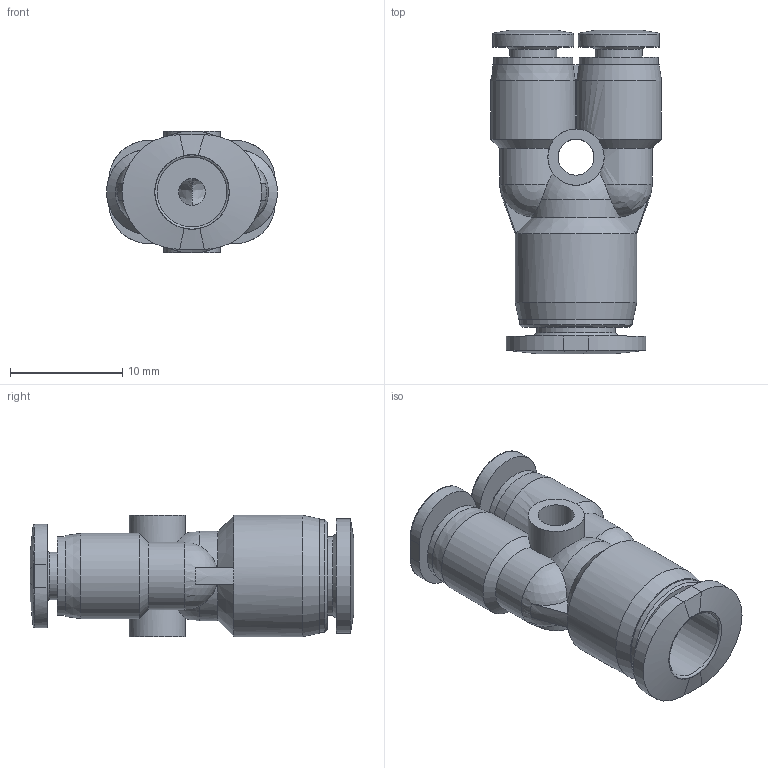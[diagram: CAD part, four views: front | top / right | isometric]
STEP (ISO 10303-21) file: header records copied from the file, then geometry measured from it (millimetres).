
FILE_DESCRIPTION((''),'2;1');
FILE_NAME('D:\INVENTOR\[New Inventor]\CDC Products 3D Ass''y\Compact\Metric\PW-C\PW0603C.stp','2009-02-11T11:28:35',('Microsoft'),(''),'Autodesk Inventor 2008','Autodesk Inventor 2008','');
FILE_SCHEMA(('AUTOMOTIVE_DESIGN { 1 0 10303 214 1 1 1 1 }'));
Length unit declared in the file: millimetre
Products named in the file (1): PW0603C
Bounding box: 15.2 x 28.78 x 10.8 mm (x, y, z)
Volume: 1765.5 mm3; surface area: 2229.8 mm2
Topology: 1 solids, 1 shells, 105 faces, 256 edges, 158 vertices
Faces by surface type: bspline 52, plane 20, cylinder 18, cone 9, torus 3, sphere 3
Full cylindrical faces by diameter (mm): 3.2 x2, 4.2 x1, 5 x2, 6.2 x1, 7 x2, 10 x1, 10.8 x1
Entity records: 5361 total; most frequent: CARTESIAN_POINT 3250, ORIENTED_EDGE 442, DIRECTION 364, EDGE_CURVE 221, AXIS2_PLACEMENT_3D 167, VERTEX_POINT 154, EDGE_LOOP 147, CIRCLE 112
